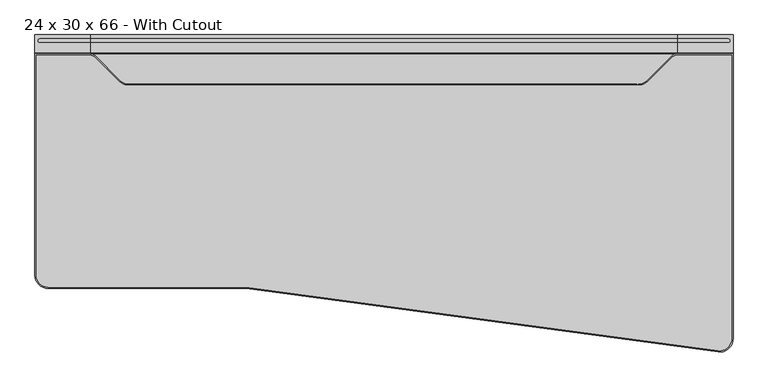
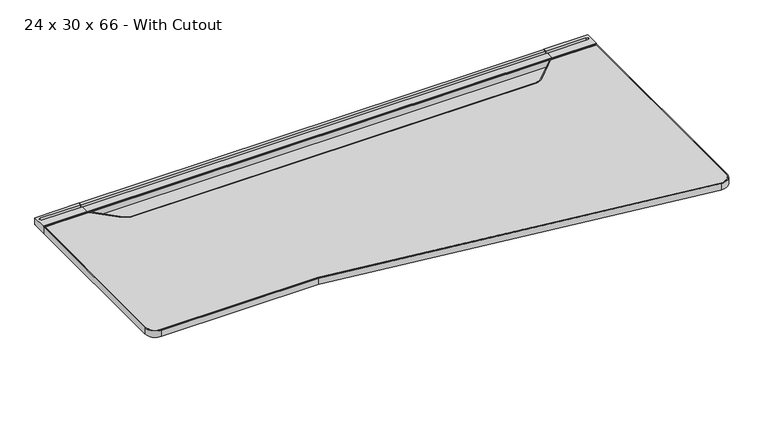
"""IFC4 building model written with IfcOpenShell, lengths in millimetres: furniture geometry, Steelcase - C Scape - Desking - Right Hand Transition - Non Sliding : 24 x 30 x 66 - With Cutout."""

from ifc_helpers import new_model, si_unit, point, frame, frame_2d, origin, place, context, project, spatial, polyline, circle_curve, trimmed, segment, composite_curve, outline, extrude, faceted_brep, source, transform, mapped, element, save
from ifc_brep_helpers import plane_surface, cylinder_surface, revolved_surface, advanced_brep


def furniture_24_x_30_x_66_with_cutout_4fd02ba2(model_context):
    return source(origin(), model_context, "Body", "SolidModel", [
        advanced_brep(
        [(1543.3802124, -45.3135132, 703.3768), (1543.3802124, -45.3135132, 722.4268341), (1543.3802124, -42.7750923, 722.4268341), (1543.3802124, -42.7750923, 725.932), (1543.3802124, -19.3290527, 725.932), (1543.3802124, -19.3290527, 713.486), (1543.3802124, -8.5111084, 713.486), (1543.3802124, -8.5111084, 725.932), (1543.3802124, 0.0, 725.932), (1543.3802124, 0.0, 705.1038636), (1543.3802124, -3.2278472, 705.1038636), (1543.3802124, -4.0331902, 703.3768), (1676.4, -45.3135132, 703.3768), (1676.4, -4.0331902, 703.3768), (1676.4, -3.2278472, 705.1038636), (1676.4, 0.0, 705.1038636), (1676.4, 0.0, 725.932), (1676.4, -42.7750923, 725.932), (1676.4, -42.7750923, 722.4268341), (1676.4, -45.3135132, 722.4268341), (1664.6379272, -8.5111084, 725.932), (1664.6379272, -19.3290527, 725.932), (1664.6379272, -19.3290527, 713.486), (1664.6379272, -8.5111084, 713.486)],
        [
            (0, 1),
            (1, 2),
            (2, 3),
            (3, 4),
            (4, 5),
            (5, 6),
            (6, 7),
            (7, 8),
            (8, 9),
            (9, 10),
            (10, 11),
            (11, 0),
            (12, 13),
            (13, 14),
            (14, 15),
            (15, 16),
            (16, 17),
            (17, 18),
            (18, 19),
            (19, 12),
            (11, 13),
            (12, 0),
            (10, 14),
            (9, 15),
            (8, 16),
            (7, 20),
            (20, 21, circle_curve(frame((1664.6379272, -13.9200806, 725.932), z_axis=(0.0, 0.0, -1.0), x_axis=(-1.0, 0.0, 0.0)), 5.4089722)),
            (21, 4),
            (3, 17),
            (2, 18),
            (1, 19),
            (5, 22),
            (22, 23, circle_curve(frame((1664.6379272, -13.9200806, 713.486), z_axis=(0.0, 0.0, 1.0), x_axis=(-1.0, 0.0, 0.0)), 5.4089722)),
            (23, 6),
            (23, 20),
            (22, 21),
        ],
        [
            plane_surface(frame((1543.3802124, -45.3135132, 703.3768), z_axis=(-1.0, 0.0, 0.0), x_axis=(0.0, 1.0, 0.0))),
            plane_surface(frame((1676.4, -45.3135132, 703.3768), z_axis=(1.0, 0.0, 0.0), x_axis=(0.0, -1.0, 0.0))),
            plane_surface(frame((1543.3802124, -45.3135132, 703.3768), z_axis=(0.0, 0.0, -1.0), x_axis=(1.0, 0.0, 0.0))),
            plane_surface(frame((1543.3802124, -4.0331902, 703.3768), z_axis=(0.0, 0.9063077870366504, -0.4226182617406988), x_axis=(1.0, 0.0, 0.0))),
            plane_surface(frame((1543.3802124, -3.2278472, 705.1038636), z_axis=(0.0, 0.0, -1.0), x_axis=(1.0, 0.0, 0.0))),
            plane_surface(frame((1543.3802124, 0.0, 705.1038636), z_axis=(0.0, 1.0, 0.0), x_axis=(1.0, 0.0, 0.0))),
            plane_surface(frame((1543.3802124, 0.0, 725.932), z_axis=(0.0, 0.0, 1.0), x_axis=(1.0, 0.0, 0.0))),
            plane_surface(frame((1543.3802124, -42.7750923, 725.932), z_axis=(0.0, -1.0, 0.0), x_axis=(1.0, 0.0, 0.0))),
            plane_surface(frame((1543.3802124, -42.7750923, 722.4268341), z_axis=(0.0, 0.0, 1.0), x_axis=(1.0, 0.0, 0.0))),
            plane_surface(frame((1543.3802124, -45.3135132, 722.4268341), z_axis=(0.0, -1.0, 0.0), x_axis=(1.0, 0.0, 0.0))),
            plane_surface(frame((1664.6379272, -8.5111084, 713.486), z_axis=(0.0, 0.0, 1.0), x_axis=(-1.0, 0.0, 0.0))),
            plane_surface(frame((1543.3802124, -8.5111084, 731.2180541), z_axis=(0.0, -1.0, 0.0), x_axis=(0.0, 0.0, -1.0))),
            revolved_surface(polyline([(1659.2289549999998, -13.9200806, 725.932), (1659.2289549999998, -13.9200806, 713.486)]), (1664.6379272, -13.9200806, 713.486), (0.0, 0.0, 1.0)),
            plane_surface(frame((1664.6379272, -19.3290527, 731.2180541), z_axis=(0.0, 1.0, 0.0), x_axis=(0.0, 0.0, -1.0))),
        ],
        [
            (0, [[1, 2, 3, 4, 5, 6, 7, 8, 9, 10, 11, 12]]),
            (1, [[13, 14, 15, 16, 17, 18, 19, 20]]),
            (2, [[21, -13, 22, -12]]),
            (3, [[23, -14, -21, -11]]),
            (4, [[24, -15, -23, -10]]),
            (5, [[25, -16, -24, -9]]),
            (6, [[-25, -8, 26, 27, 28, -4, 29, -17]]),
            (7, [[30, -18, -29, -3]]),
            (8, [[31, -19, -30, -2]]),
            (9, [[-22, -20, -31, -1]]),
            (10, [[-6, 32, 33, 34]]),
            (11, [[35, -26, -7, -34]]),
            (12, [[36, -27, -35, -33]]),
            (13, [[-5, -28, -36, -32]]),
        ],
    ),
        faceted_brep([(1657.3492368, -565.0752923, 700.7093833), (1657.3492368, -565.0752923, 703.3768), (1543.3802124, -565.0752923, 703.3768), (1543.3802124, -565.0752923, 679.3263935), (1559.0143699, -565.0752923, 679.3263935), (1561.6349121, -565.0752923, 693.4200291), (1643.0741272, -565.0752923, 693.4200291), (1657.3492368, -4.0331902, 700.7093833), (1643.0741272, -4.0331902, 693.4200291), (1561.6349121, -4.0331902, 693.4200291), (1549.7286653, -4.0331902, 629.3866), (1543.3802124, -4.0331902, 629.3866), (1543.3802124, -4.0331902, 703.3768), (1657.3492368, -4.0331902, 703.3768), (1556.8490949, -376.5599397, 667.6812472), (1549.7286653, -364.1172546, 629.3866), (1543.3802124, -364.1172546, 629.3866), (1543.3802124, -376.5599397, 667.6812472)], [[[0, 1, 2, 3, 4, 5, 6]], [[7, 8, 9, 10, 11, 12, 13]], [[6, 8, 7, 0]], [[5, 9, 8, 6]], [[9, 5, 4, 14, 15, 10]], [[10, 15, 16, 11]], [[11, 16, 17, 3, 2, 12]], [[1, 13, 12, 2]], [[0, 7, 13, 1]], [[14, 4, 3, 17]], [[17, 16, 15, 14]]]),
        extrude(outline(composite_curve([segment(polyline([(-293.5216187, 657.3775839), (-559.0022133, 680.1371551)]), True, "CONTINUOUS"), segment(trimmed(circle_curve(frame_2d((-558.7581271, 682.9843154)), 2.8576039), [point((-559.0022133, 680.1371551))], [point((-561.5383043, 682.3236226))], False, "CARTESIAN"), True, "CONTINUOUS"), segment(polyline([(-561.5383043, 682.3236226), (-566.0887542, 701.4717905), (-557.8334441, 701.4717905), (-557.8334441, 703.3768), (-442.6683806, 703.3768), (-442.6683806, 696.3917953), (-318.2108611, 696.3917953), (-318.2108611, 703.3768), (-293.5216187, 703.3768), (-293.5216187, 657.3775839)]), True, "CONTINUOUS")], self_intersect=False)), frame((801.624, 0.0, 0.0), z_axis=(1.0, 0.0, 0.0), x_axis=(0.0, 1.0, 0.0)), (0.0, 0.0, 1.0), 73.152),
        advanced_brep(
        [(133.0197876, -45.3135132, 703.3768), (133.0197876, -4.0331902, 703.3768), (133.0197876, -3.2278472, 705.1038636), (133.0197876, 0.0, 705.1038636), (133.0197876, 0.0, 725.932), (133.0197876, -8.5111084, 725.932), (133.0197876, -8.5111084, 713.486), (133.0197876, -19.3290527, 713.486), (133.0197876, -19.3290527, 725.932), (133.0197876, -42.7750923, 725.932), (133.0197876, -42.7750923, 722.4268341), (133.0197876, -45.3135132, 722.4268341), (0.0, -45.3135132, 703.3768), (0.0, -45.3135132, 722.4268341), (0.0, -42.7750923, 722.4268341), (0.0, -42.7750923, 725.932), (0.0, 0.0, 725.932), (0.0, 0.0, 705.1038636), (0.0, -3.2278472, 705.1038636), (0.0, -4.0331902, 703.3768), (11.7620728, -19.3290527, 725.932), (11.7620728, -8.5111084, 725.932), (11.7620728, -8.5111084, 713.486), (11.7620728, -19.3290527, 713.486)],
        [
            (0, 1),
            (1, 2),
            (2, 3),
            (3, 4),
            (4, 5),
            (5, 6),
            (6, 7),
            (7, 8),
            (8, 9),
            (9, 10),
            (10, 11),
            (11, 0),
            (12, 13),
            (13, 14),
            (14, 15),
            (15, 16),
            (16, 17),
            (17, 18),
            (18, 19),
            (19, 12),
            (0, 12),
            (19, 1),
            (18, 2),
            (17, 3),
            (16, 4),
            (15, 9),
            (8, 20),
            (20, 21, circle_curve(frame((11.7620728, -13.9200806, 725.932), z_axis=(0.0, 0.0, -1.0), x_axis=(1.0, 0.0, 0.0)), 5.4089722)),
            (21, 5),
            (14, 10),
            (13, 11),
            (6, 22),
            (22, 23, circle_curve(frame((11.7620728, -13.9200806, 713.486), z_axis=(0.0, 0.0, 1.0), x_axis=(1.0, 0.0, 0.0)), 5.4089722)),
            (23, 7),
            (21, 22),
            (20, 23),
        ],
        [
            plane_surface(frame((133.0197876, -45.3135132, 703.3768), z_axis=(1.0, 0.0, 0.0), x_axis=(0.0, 1.0, 0.0))),
            plane_surface(frame((0.0, -45.3135132, 703.3768), z_axis=(-1.0, 0.0, 0.0), x_axis=(0.0, -1.0, 0.0))),
            plane_surface(frame((133.0197876, -45.3135132, 703.3768), z_axis=(0.0, 0.0, -1.0), x_axis=(-1.0, 0.0, 0.0))),
            plane_surface(frame((133.0197876, -4.0331902, 703.3768), z_axis=(0.0, 0.9063077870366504, -0.4226182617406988), x_axis=(-1.0, 0.0, 0.0))),
            plane_surface(frame((133.0197876, -3.2278472, 705.1038636), z_axis=(0.0, 0.0, -1.0), x_axis=(-1.0, 0.0, 0.0))),
            plane_surface(frame((133.0197876, 0.0, 705.1038636), z_axis=(0.0, 1.0, 0.0), x_axis=(-1.0, 0.0, 0.0))),
            plane_surface(frame((133.0197876, 0.0, 725.932), z_axis=(0.0, 0.0, 1.0), x_axis=(-1.0, 0.0, 0.0))),
            plane_surface(frame((133.0197876, -42.7750923, 725.932), z_axis=(0.0, -1.0, 0.0), x_axis=(-1.0, 0.0, 0.0))),
            plane_surface(frame((133.0197876, -42.7750923, 722.4268341), z_axis=(0.0, 0.0, 1.0), x_axis=(-1.0, 0.0, 0.0))),
            plane_surface(frame((133.0197876, -45.3135132, 722.4268341), z_axis=(0.0, -1.0, 0.0), x_axis=(-1.0, 0.0, 0.0))),
            plane_surface(frame((11.7620728, -8.5111084, 713.486), z_axis=(0.0, 0.0, 1.0), x_axis=(1.0, 0.0, 0.0))),
            plane_surface(frame((133.0197876, -8.5111084, 731.2180541), z_axis=(0.0, -1.0, 0.0), x_axis=(0.0, 0.0, -1.0))),
            revolved_surface(polyline([(17.171045, -13.9200806, 725.932), (17.171045, -13.9200806, 713.486)]), (11.7620728, -13.9200806, 713.486), (0.0, 0.0, 1.0)),
            plane_surface(frame((11.7620728, -19.3290527, 731.2180541), z_axis=(0.0, 1.0, 0.0), x_axis=(0.0, 0.0, -1.0))),
        ],
        [
            (0, [[1, 2, 3, 4, 5, 6, 7, 8, 9, 10, 11, 12]]),
            (1, [[13, 14, 15, 16, 17, 18, 19, 20]]),
            (2, [[-1, 21, -20, 22]]),
            (3, [[-2, -22, -19, 23]]),
            (4, [[-3, -23, -18, 24]]),
            (5, [[-4, -24, -17, 25]]),
            (6, [[-16, 26, -9, 27, 28, 29, -5, -25]]),
            (7, [[-10, -26, -15, 30]]),
            (8, [[-11, -30, -14, 31]]),
            (9, [[-12, -31, -13, -21]]),
            (10, [[32, 33, 34, -7]]),
            (11, [[-32, -6, -29, 35]]),
            (12, [[-33, -35, -28, 36]]),
            (13, [[-34, -36, -27, -8]]),
        ],
    ),
        faceted_brep([(19.0507632, -565.0752923, 700.7093833), (33.3258728, -565.0752923, 693.4200291), (114.7650879, -565.0752923, 693.4200291), (117.3856301, -565.0752923, 679.3263935), (133.0197876, -565.0752923, 679.3263935), (133.0197876, -565.0752923, 703.3768), (19.0507632, -565.0752923, 703.3768), (19.0507632, -4.0331902, 700.7093833), (19.0507632, -4.0331902, 703.3768), (133.0197876, -4.0331902, 703.3768), (133.0197876, -4.0331902, 629.3866), (126.6713347, -4.0331902, 629.3866), (114.7650879, -4.0331902, 693.4200291), (33.3258728, -4.0331902, 693.4200291), (126.6713347, -364.1172546, 629.3866), (119.5509051, -376.5599397, 667.6812472), (133.0197876, -364.1172546, 629.3866), (133.0197876, -376.5599397, 667.6812472)], [[[0, 1, 2, 3, 4, 5, 6]], [[7, 8, 9, 10, 11, 12, 13]], [[1, 0, 7, 13]], [[2, 1, 13, 12]], [[12, 11, 14, 15, 3, 2]], [[11, 10, 16, 14]], [[10, 9, 5, 4, 17, 16]], [[6, 5, 9, 8]], [[0, 6, 8, 7]], [[15, 17, 4, 3]], [[17, 15, 14, 16]]]),
        extrude(outline(polyline([(-8.5111084, 725.932), (0.0, 725.932), (0.0, 705.1038636), (-3.2278472, 705.1038636), (-4.0331902, 703.3768), (-45.3135132, 703.3768), (-45.3135132, 722.4268341), (-42.7750923, 722.4268341), (-42.7750923, 725.932), (-19.3290527, 725.932), (-19.3290527, 713.486), (-8.5111084, 713.486), (-8.5111084, 725.932)])), frame((133.6675, 0.0, 0.0), z_axis=(1.0, 0.0, 0.0), x_axis=(0.0, 1.0, 0.0)), (0.0, 0.0, 1.0), 1408.1252124),
        extrude(outline(polyline([(133.6675, -293.5216187), (133.6675, -4.0331902), (1541.7927124, -4.0331902), (1541.7927124, -293.5216187), (133.6675, -293.5216187)])), frame((0.0, 0.0, 629.3866), z_axis=(0.0, 0.0, 1.0), x_axis=(1.0, 0.0, 0.0)), (0.0, 0.0, 1.0), 73.9902),
        extrude(outline(composite_curve([segment(polyline([(508.0002405, -606.5490234), (31.8007993, -606.5490234)]), True, "CONTINUOUS"), segment(trimmed(circle_curve(frame_2d((31.8007993, -577.7962241)), 28.7527993), [point((31.8007993, -606.5490234))], [point((3.048, -577.7962241))], False, "CARTESIAN"), True, "CONTINUOUS"), segment(polyline([(3.048, -577.7962241), (3.048, -48.3660689), (131.6700001, -48.3660689)]), True, "CONTINUOUS"), segment(trimmed(circle_curve(frame_2d((131.6700001, -63.6060689)), 15.24), [point((131.6700001, -48.3660689))], [point((142.4463079, -52.8297619))], False, "CARTESIAN"), True, "CONTINUOUS"), segment(polyline([(142.4463079, -52.8297619), (199.9201078, -110.303566)]), True, "CONTINUOUS"), segment(trimmed(circle_curve(frame_2d((226.8608771, -83.3627986)), 38.1), [point((199.9201078, -110.303566))], [point((226.8608771, -121.4627986))], True, "CARTESIAN"), True, "CONTINUOUS"), segment(polyline([(226.8608771, -121.4627986), (1447.0835261, -121.4627986)]), True, "CONTINUOUS"), segment(trimmed(circle_curve(frame_2d((1447.0835261, -83.3627986)), 38.1), [point((1447.0835261, -121.4627986))], [point((1474.0242945, -110.303567))], True, "CARTESIAN"), True, "CONTINUOUS"), segment(polyline([(1474.0242945, -110.303567), (1531.5588568, -52.7690046)]), True, "CONTINUOUS"), segment(trimmed(circle_curve(frame_2d((1542.188484, -63.3986318)), 15.0325629), [point((1531.5588568, -52.7690046))], [point((1542.188484, -48.3660689))], False, "CARTESIAN"), True, "CONTINUOUS"), segment(polyline([(1542.188484, -48.3660689), (1673.352, -48.3660689), (1673.352, -730.055403)]), True, "CONTINUOUS"), segment(trimmed(circle_curve(frame_2d((1643.8234075, -730.055403)), 29.5285925), [point((1673.352, -730.055403))], [point((1640.7008291, -759.4184287))], False, "CARTESIAN"), True, "CONTINUOUS"), segment(polyline([(1640.7008291, -759.4184287), (508.0002405, -606.5490234)]), True, "CONTINUOUS")], self_intersect=False)), frame((0.0, 0.0, 703.3768), z_axis=(0.0, 0.0, 1.0), x_axis=(1.0, 0.0, 0.0)), (0.0, 0.0, 1.0), 20.5232),
        advanced_brep(
        [(1445.2564053, -118.4118221, 723.9), (1445.2564053, -121.4627986, 723.9), (1445.2564053, -121.4627986, 703.3768), (1445.2564053, -118.4118221, 703.3768), (223.9255059, -121.4627986, 723.9), (223.9255059, -121.4627986, 703.3768), (223.9255059, -118.4118221, 703.3768), (223.9255059, -118.4118221, 723.9), (201.9957286, -112.379187, 703.3768), (201.9957286, -112.379187, 723.9), (204.1530949, -110.2218209, 723.9), (204.1530949, -110.2218209, 703.3768), (142.3719136, -52.7553676, 723.9), (142.3719136, -52.7553676, 703.3768), (144.5292799, -50.5980015, 703.3768), (144.5292799, -50.5980015, 723.9), (133.2679227, -48.3660689, 703.3768), (133.2679227, -48.3660689, 723.9), (133.4327798, -45.3150923, 723.9), (133.4327798, -45.3150923, 703.3768), (3.048, -48.3660689, 723.9), (3.048, -48.3660689, 703.3768), (-0.0029766, -45.3150923, 703.3768), (-0.0029766, -45.3150923, 723.9), (3.048, -577.7962241, 723.9), (3.048, -577.7962241, 703.3768), (-0.0029766, -577.7962241, 703.3768), (-0.0029766, -577.7962241, 723.9), (31.8007993, -606.5490234, 703.3768), (31.8007993, -606.5490234, 723.9), (31.8007993, -609.6, 723.9), (31.8007993, -609.6, 703.3768), (508.0002405, -606.5490234, 723.9), (508.0002405, -606.5490234, 703.3768), (507.7952895, -609.6, 703.3768), (507.7952895, -609.6, 723.9), (1640.7008291, -759.4184287, 723.9), (1640.7008291, -759.4184287, 703.3768), (1640.2927685, -762.4419935, 703.3768), (1640.2927685, -762.4419935, 723.9), (1673.352, -730.055403, 723.9), (1676.4029766, -730.055403, 723.9), (1676.4029766, -45.3150923, 723.9), (1541.0053399, -45.3150923, 723.9), (1532.917872, -47.0952981, 723.9), (1469.7912931, -110.2218359, 723.9), (1450.0189084, -118.4118221, 723.9), (1450.0189084, -121.4627986, 723.9), (1471.9486586, -112.3792028, 723.9), (1534.6743869, -49.6535154, 723.9), (1541.0053399, -48.3660689, 723.9), (1673.352, -48.3660689, 723.9), (1673.352, -730.055403, 703.3768), (1676.4029766, -730.055403, 703.3768), (1673.352, -48.3660689, 703.3768), (1541.0053399, -48.3660689, 703.3768), (1534.6743869, -49.6535154, 703.3768), (1471.9486586, -112.3792028, 703.3768), (1450.0189084, -121.4627986, 703.3768), (1450.0189084, -118.4118221, 703.3768), (1469.7912931, -110.2218359, 703.3768), (1532.917872, -47.0952981, 703.3768), (1541.0053399, -45.3150923, 703.3768), (1676.4029766, -45.3150923, 703.3768)],
        [
            (0, 1),
            (1, 2),
            (2, 3),
            (3, 0),
            (1, 4),
            (4, 5),
            (5, 2),
            (3, 6),
            (6, 7),
            (7, 0),
            (8, 5, circle_curve(frame((223.9255059, -90.4494114, 703.3768), z_axis=(0.0, 0.0, 1.0), x_axis=(0.0, -1.0, 0.0)), 31.0133872)),
            (4, 9, circle_curve(frame((223.9255059, -90.4494114, 723.9), z_axis=(0.0, 0.0, -1.0), x_axis=(0.0, -1.0, 0.0)), 31.0133872)),
            (9, 8),
            (10, 7, circle_curve(frame((223.9255059, -90.4494114, 723.9), z_axis=(0.0, 0.0, 1.0), x_axis=(0.0, -1.0, 0.0)), 27.9624107)),
            (6, 11, circle_curve(frame((223.9255059, -90.4494114, 703.3768), z_axis=(0.0, 0.0, -1.0), x_axis=(0.0, -1.0, 0.0)), 27.9624107)),
            (11, 10),
            (9, 12),
            (12, 13),
            (13, 8),
            (11, 14),
            (14, 15),
            (15, 10),
            (16, 13, circle_curve(frame((131.5389064, -63.588374, 703.3768), z_axis=(0.0, 0.0, -1.0), x_axis=(0.7071068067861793, 0.7071067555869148, 0.0)), 15.3201851)),
            (12, 17, circle_curve(frame((131.5389064, -63.588374, 723.9), z_axis=(0.0, 0.0, 1.0), x_axis=(0.7071068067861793, 0.7071067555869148, 0.0)), 15.3201851)),
            (17, 16),
            (18, 15, circle_curve(frame((131.5389064, -63.588374, 723.9), z_axis=(0.0, 0.0, -1.0), x_axis=(0.7071068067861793, 0.7071067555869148, 0.0)), 18.3711616)),
            (14, 19, circle_curve(frame((131.5389064, -63.588374, 703.3768), z_axis=(0.0, 0.0, 1.0), x_axis=(0.7071068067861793, 0.7071067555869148, 0.0)), 18.3711616)),
            (19, 18),
            (17, 20),
            (20, 21),
            (21, 16),
            (19, 22),
            (22, 23),
            (23, 18),
            (20, 24),
            (24, 25),
            (25, 21),
            (22, 26),
            (26, 27),
            (27, 23),
            (28, 25, circle_curve(frame((31.8007993, -577.7962241, 703.3768), z_axis=(0.0, 0.0, -1.0), x_axis=(-1.0, 0.0, 0.0)), 28.7527993)),
            (24, 29, circle_curve(frame((31.8007993, -577.7962241, 723.9), z_axis=(0.0, 0.0, 1.0), x_axis=(-1.0, 0.0, 0.0)), 28.7527993)),
            (29, 28),
            (30, 27, circle_curve(frame((31.8007993, -577.7962241, 723.9), z_axis=(0.0, 0.0, -1.0), x_axis=(-1.0, 0.0, 0.0)), 31.8037759)),
            (26, 31, circle_curve(frame((31.8007993, -577.7962241, 703.3768), z_axis=(0.0, 0.0, 1.0), x_axis=(-1.0, 0.0, 0.0)), 31.8037759)),
            (31, 30),
            (29, 32),
            (32, 33),
            (33, 28),
            (31, 34),
            (34, 35),
            (35, 30),
            (32, 36),
            (36, 37),
            (37, 33),
            (34, 38),
            (38, 39),
            (39, 35),
            (40, 36, circle_curve(frame((1643.8234075, -730.055403, 723.9), z_axis=(0.0, 0.0, -1.0), x_axis=(-0.10574762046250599, -0.9943930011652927, 0.0)), 29.5285925)),
            (39, 41, circle_curve(frame((1643.8234075, -730.055403, 723.9), z_axis=(0.0, 0.0, 1.0), x_axis=(-0.10574762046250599, -0.9943930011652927, 0.0)), 32.5795691)),
            (41, 42),
            (42, 43),
            (43, 44, circle_curve(frame((1541.0053399, -64.5758622, 723.9), z_axis=(0.0, 0.0, 1.0), x_axis=(0.0, 1.0, 0.0)), 19.2607699)),
            (44, 45),
            (45, 46, circle_curve(frame((1450.0189084, -90.4494383, 723.9), z_axis=(0.0, 0.0, -1.0), x_axis=(0.7071065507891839, -0.707107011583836, 0.0)), 27.9623838)),
            (46, 47),
            (47, 48, circle_curve(frame((1450.0189084, -90.4494383, 723.9), z_axis=(0.0, 0.0, 1.0), x_axis=(0.7071065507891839, -0.707107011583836, 0.0)), 31.0133604)),
            (48, 49),
            (49, 50, circle_curve(frame((1541.0053399, -64.5758622, 723.9), z_axis=(0.0, 0.0, -1.0), x_axis=(0.0, 1.0, 0.0)), 16.2097933)),
            (50, 51),
            (51, 40),
            (52, 37, circle_curve(frame((1643.8234075, -730.055403, 703.3768), z_axis=(0.0, 0.0, -1.0), x_axis=(-0.10574762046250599, -0.9943930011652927, 0.0)), 29.5285925)),
            (40, 52),
            (53, 38, circle_curve(frame((1643.8234075, -730.055403, 703.3768), z_axis=(0.0, 0.0, -1.0), x_axis=(-0.10574762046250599, -0.9943930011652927, 0.0)), 32.5795691)),
            (52, 54),
            (54, 55),
            (55, 56, circle_curve(frame((1541.0053399, -64.5758622, 703.3768), z_axis=(0.0, 0.0, 1.0), x_axis=(0.0, 1.0, 0.0)), 16.2097933)),
            (56, 57),
            (57, 58, circle_curve(frame((1450.0189084, -90.4494383, 703.3768), z_axis=(0.0, 0.0, -1.0), x_axis=(0.7071065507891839, -0.707107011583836, 0.0)), 31.0133604)),
            (58, 59),
            (59, 60, circle_curve(frame((1450.0189084, -90.4494383, 703.3768), z_axis=(0.0, 0.0, 1.0), x_axis=(0.7071065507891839, -0.707107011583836, 0.0)), 27.9623838)),
            (60, 61),
            (61, 62, circle_curve(frame((1541.0053399, -64.5758622, 703.3768), z_axis=(0.0, 0.0, -1.0), x_axis=(0.0, 1.0, 0.0)), 19.2607699)),
            (62, 63),
            (63, 53),
            (53, 41),
            (51, 54),
            (63, 42),
            (50, 55),
            (62, 43),
            (49, 56),
            (61, 44),
            (48, 57),
            (60, 45),
            (46, 59),
            (58, 47),
        ],
        [
            plane_surface(frame((1445.2564053, -121.4627986, 0.0), z_axis=(1.0, 0.0, 0.0), x_axis=(0.0, 0.0, 1.0))),
            plane_surface(frame((1445.2564053, -121.4627986, 723.9), z_axis=(0.0, -1.0, 0.0), x_axis=(-1.0, 0.0, 0.0))),
            plane_surface(frame((1445.2564053, -118.4118221, 703.3768), z_axis=(0.0, 1.0, 0.0), x_axis=(-1.0, 0.0, 0.0))),
            cylinder_surface(frame((223.9255059, -90.4494114, 0.0), z_axis=(0.0, 0.0, -1.0), x_axis=(0.0, -1.0, 0.0)), 31.0133872),
            revolved_surface(polyline([(223.9255059, -118.4118221, 703.3768), (223.9255059, -118.4118221, 723.9)]), (223.9255059, -90.4494114, 0.0), (0.0, 0.0, -1.0)),
            plane_surface(frame((201.9957286, -112.379187, 723.9), z_axis=(-0.7071068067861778, -0.7071067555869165, 0.0), x_axis=(-0.7071067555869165, 0.7071068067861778, 0.0))),
            plane_surface(frame((204.1530949, -110.2218209, 703.3768), z_axis=(0.7071068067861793, 0.7071067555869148, 0.0), x_axis=(-0.7071067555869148, 0.7071068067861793, 0.0))),
            revolved_surface(polyline([(142.3719135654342, -52.75536761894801, 723.9), (142.3719135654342, -52.75536761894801, 703.3768)]), (131.5389064, -63.588374, 0.0), (0.0, 0.0, 1.0)),
            cylinder_surface(frame((131.5389064, -63.588374, 0.0), z_axis=(0.0, 0.0, 1.0), x_axis=(0.7071068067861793, 0.7071067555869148, 0.0)), 18.3711616),
            plane_surface(frame((133.2679227, -48.3660689, 723.9), z_axis=(0.0, -1.0, 0.0), x_axis=(-1.0, 0.0, 0.0))),
            plane_surface(frame((133.4327798, -45.3150923, 703.3768), z_axis=(0.0, 1.0, 0.0), x_axis=(-1.0, 0.0, 0.0))),
            plane_surface(frame((3.048, -48.3660689, 723.9), z_axis=(1.0, 0.0, 0.0), x_axis=(0.0, -1.0, 0.0))),
            plane_surface(frame((-0.0029766, -45.3150923, 703.3768), z_axis=(-1.0, 0.0, 0.0), x_axis=(0.0, -1.0, 0.0))),
            revolved_surface(polyline([(3.048000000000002, -577.7962241, 723.9), (3.048000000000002, -577.7962241, 703.3768)]), (31.8007993, -577.7962241, 0.0), (0.0, 0.0, 1.0)),
            cylinder_surface(frame((31.8007993, -577.7962241, 0.0), z_axis=(0.0, 0.0, 1.0), x_axis=(-1.0, 0.0, 0.0)), 31.8037759),
            plane_surface(frame((31.8007993, -606.5490234, 723.9), z_axis=(0.0, 1.0, 0.0), x_axis=(1.0, 0.0, 0.0))),
            plane_surface(frame((31.8007993, -609.6, 703.3768), z_axis=(0.0, -1.0, 0.0), x_axis=(1.0, 0.0, 0.0))),
            plane_surface(frame((508.0002405, -606.5490234, 723.9), z_axis=(0.13374756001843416, 0.9910154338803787, 0.0), x_axis=(0.9910154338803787, -0.13374756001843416, 0.0))),
            plane_surface(frame((507.7952895, -609.6, 703.3768), z_axis=(-0.13374756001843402, -0.9910154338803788, 0.0), x_axis=(0.9910154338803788, -0.13374756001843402, 0.0))),
            plane_surface(frame((1643.8234075, -730.055403, 723.9), z_axis=(0.0, 0.0, 1.0000000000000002), x_axis=(-0.10574762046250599, -0.9943930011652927, 0.0))),
            revolved_surface(polyline([(1640.700829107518, -759.4184287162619, 723.9), (1640.700829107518, -759.4184287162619, 703.3768)]), (1643.8234075, -730.055403, 0.0), (0.0, 0.0, 1.0)),
            plane_surface(frame((1643.8234075, -730.055403, 703.3768), z_axis=(0.0, 0.0, -1.0000000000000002), x_axis=(-0.10574762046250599, -0.9943930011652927, 0.0))),
            cylinder_surface(frame((1643.8234075, -730.055403, 0.0), z_axis=(0.0, 0.0, 1.0), x_axis=(-0.10574762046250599, -0.9943930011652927, 0.0)), 32.5795691),
            plane_surface(frame((1673.352, -730.055403, 723.9), z_axis=(-1.0, 0.0, 0.0), x_axis=(0.0, 1.0, 0.0))),
            plane_surface(frame((1676.4029766, -730.055403, 703.3768), z_axis=(1.0, 0.0, 0.0), x_axis=(0.0, 1.0, 0.0))),
            plane_surface(frame((1673.352, -48.3660689, 723.9), z_axis=(0.0, -1.0, 0.0), x_axis=(-1.0, 0.0, 0.0))),
            plane_surface(frame((1676.4029766, -45.3150923, 703.3768), z_axis=(0.0, 1.0, 0.0), x_axis=(-1.0, 0.0, 0.0))),
            revolved_surface(polyline([(1541.0053399, -48.3660689, 723.9), (1541.0053399, -48.3660689, 703.3768)]), (1541.0053399, -64.5758622, 0.0), (0.0, 0.0, 1.0)),
            cylinder_surface(frame((1541.0053399, -64.5758622, 0.0), z_axis=(0.0, 0.0, 1.0), x_axis=(0.0, 1.0, 0.0)), 19.2607699),
            plane_surface(frame((1534.6743869, -49.6535154, 723.9), z_axis=(0.7071065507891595, -0.7071070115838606, 0.0), x_axis=(-0.7071070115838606, -0.7071065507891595, 0.0))),
            plane_surface(frame((1532.917872, -47.0952981, 703.3768), z_axis=(-0.7071065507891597, 0.7071070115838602, 0.0), x_axis=(-0.7071070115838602, -0.7071065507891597, 0.0))),
            plane_surface(frame((1450.0189084, -121.4627986, 0.0), z_axis=(-1.0, 0.0, 0.0), x_axis=(0.0, 0.0, 1.0))),
            cylinder_surface(frame((1450.0189084, -90.4494383, 0.0), z_axis=(0.0, 0.0, -1.0), x_axis=(0.7071065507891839, -0.707107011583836, 0.0)), 31.0133604),
            revolved_surface(polyline([(1469.7912931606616, -110.22183594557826, 703.3768), (1469.7912931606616, -110.22183594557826, 723.9)]), (1450.0189084, -90.4494383, 0.0), (0.0, 0.0, -1.0)),
        ],
        [
            (0, [[1, 2, 3, 4]]),
            (1, [[-2, 5, 6, 7]]),
            (2, [[-4, 8, 9, 10]]),
            (3, [[11, -6, 12, 13]]),
            (4, [[14, -9, 15, 16]]),
            (5, [[-13, 17, 18, 19]]),
            (6, [[-16, 20, 21, 22]]),
            (7, [[23, -18, 24, 25]]),
            (8, [[26, -21, 27, 28]]),
            (9, [[-25, 29, 30, 31]]),
            (10, [[-28, 32, 33, 34]]),
            (11, [[-30, 35, 36, 37]]),
            (12, [[-33, 38, 39, 40]]),
            (13, [[41, -36, 42, 43]]),
            (14, [[44, -39, 45, 46]]),
            (15, [[-43, 47, 48, 49]]),
            (16, [[-46, 50, 51, 52]]),
            (17, [[-48, 53, 54, 55]]),
            (18, [[-51, 56, 57, 58]]),
            (19, [[59, -53, -47, -42, -35, -29, -24, -17, -12, -5, -1, -10, -14, -22, -26, -34, -40, -44, -52, -58, 60, 61, 62, 63, 64, 65, 66, 67, 68, 69, 70, 71]]),
            (20, [[72, -54, -59, 73]]),
            (21, [[74, -56, -50, -45, -38, -32, -27, -20, -15, -8, -3, -7, -11, -19, -23, -31, -37, -41, -49, -55, -72, 75, 76, 77, 78, 79, 80, 81, 82, 83, 84, 85]]),
            (22, [[-60, -57, -74, 86]]),
            (23, [[-73, -71, 87, -75]]),
            (24, [[-86, -85, 88, -61]]),
            (25, [[-87, -70, 89, -76]]),
            (26, [[-88, -84, 90, -62]]),
            (27, [[-77, -89, -69, 91]]),
            (28, [[-63, -90, -83, 92]]),
            (29, [[-91, -68, 93, -78]]),
            (30, [[-92, -82, 94, -64]]),
            (31, [[95, -80, 96, -66]]),
            (32, [[-79, -93, -67, -96]]),
            (33, [[-65, -94, -81, -95]]),
        ],
    ),
    ])


if __name__ == "__main__":
    model = new_model("IFC4")
    model_context = context("Model", 3, world=origin())
    ifc_project = project(units=[si_unit("LENGTHUNIT", "METRE", prefix="MILLI")], contexts=[model_context])
    site = spatial("IfcSite", under=ifc_project)
    building = spatial("IfcBuilding", under=site)
    placement = place(None, origin())
    furniture_24_x_30_x_66_with_cutout_shape = furniture_24_x_30_x_66_with_cutout_4fd02ba2(model_context)
    element("IfcFurniture", 1, ObjectType="Steelcase - C Scape - Desking - Right Hand Transition - Non Sliding : 24 x 30 x 66 - With Cutout", at=placement, inside=building, context=model_context, shape_type="MappedRepresentation", body=[
        mapped(furniture_24_x_30_x_66_with_cutout_shape, transform((0.0, 0.0, 0.0), x_axis=(1.0, 0.0, 0.0), y_axis=(0.0, 1.0, 0.0), z_axis=(0.0, 0.0, 1.0))),
    ])
    save(model, "model.ifc")
